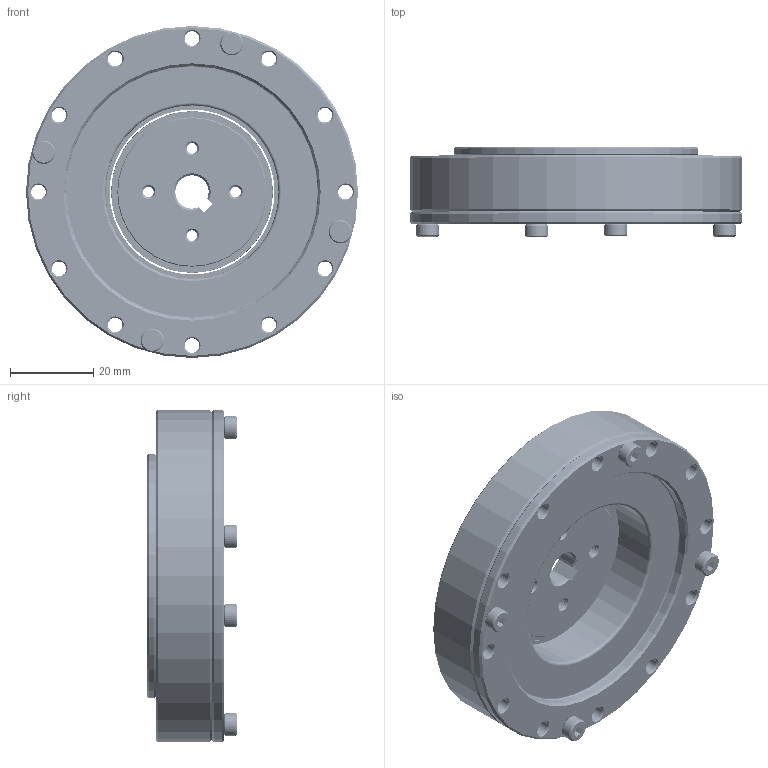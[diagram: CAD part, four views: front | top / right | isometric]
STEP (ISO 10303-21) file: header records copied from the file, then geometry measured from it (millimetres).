
FILE_DESCRIPTION(/* description */ (''),/* implementation_level */ '2;1');
FILE_NAME(/* name */ 'HBD17.stp',/* time_stamp */ '2023-02-20T14:46:46+08:00',/* author */ (''),/* organization */ (''),/* preprocessor_version */ 'ST-DEVELOPER v16',/* originating_system */ 'SIEMENS PLM Software NX 10.0',/* authorisation */ '');
FILE_SCHEMA (('CONFIG_CONTROL_DESIGN'));
Products named in the file (1): HBD17
Bounding box: 80 x 21.5 x 80 mm (x, y, z)
Volume: 33769.1 mm3; surface area: 55374.1 mm2
Topology: 36 solids, 37 shells, 791 faces, 2056 edges, 1333 vertices
Faces by surface type: plane 250, cylinder 207, cone 187, bspline 77, extrusion 42, sphere 21, torus 7
Full cylindrical faces by diameter (mm): 2.3 x1, 2.5 x40, 3.5 x42, 4 x1, 5.6 x4, 29 x1, 30.3 x2, 31.5 x2, 32.5 x1, 33.3 x2, 33.5 x1, 36 x1, 38.9 x1, 39.772 x2, 41.722 x2, 43.25 x1, 44 x1, 45.8 x1, 46 x1, 47.2 x2, 48 x1, 53 x1, 59 x3, 60.5 x2, 61 x1, 62.8 x1, 63 x1, 66 x1, 66.5 x1, 67.1 x1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
Entity records: 137666 total; most frequent: CARTESIAN_POINT 122173, ORIENTED_EDGE 2948, DIRECTION 2741, EDGE_CURVE 1474, EDGE_LOOP 1157, VERTEX_POINT 1134, AXIS2_PLACEMENT_3D 1116, FACE_BOUND 799
